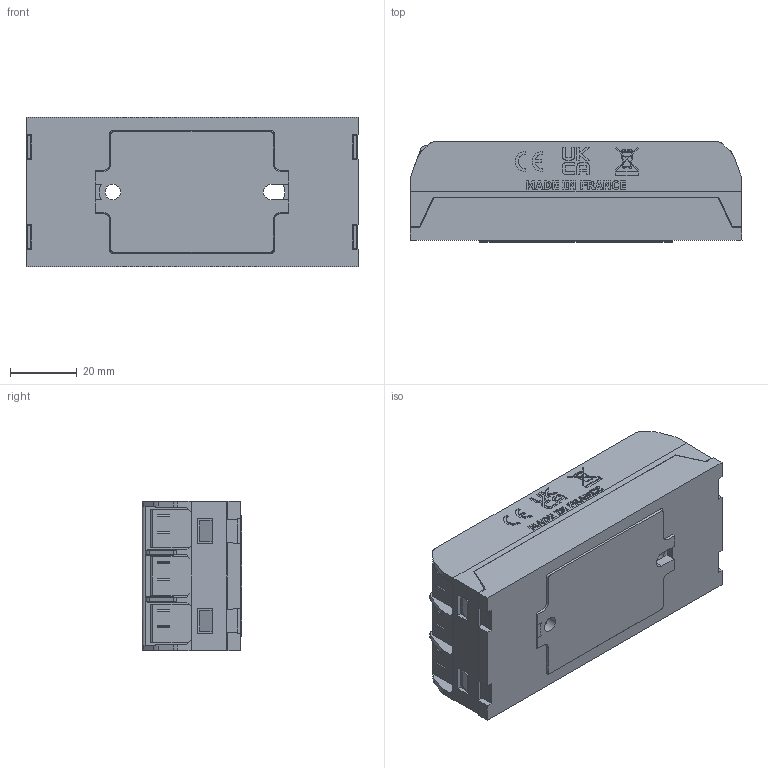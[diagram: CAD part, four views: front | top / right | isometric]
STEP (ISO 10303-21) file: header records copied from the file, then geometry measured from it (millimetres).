
FILE_DESCRIPTION(/* description */ (''),/* implementation_level */ '2;1');
FILE_NAME(/* name */ 'R:\Stock\3D pour clients\CELDUC references\2D3D 696 A.stp',/* time_stamp */ '2023-12-06T11:08:15+01:00',/* author */ ('ysicot'),/* organization */ (''),/* preprocessor_version */ 'ST-DEVELOPER v17',/* originating_system */ 'Autodesk Inventor 2018',/* authorisation */ '');
FILE_SCHEMA (('CONFIG_CONTROL_DESIGN'));
Length unit declared in the file: millimetre
Products named in the file (1): SMQ_Shrinkwrap_1
Bounding box: 99.8 x 30.03 x 45 mm (x, y, z)
Volume: 113319.9 mm3; surface area: 32113.8 mm2
Topology: 1 solids, 1 shells, 1282 faces, 3444 edges, 2265 vertices
Faces by surface type: plane 1016, cylinder 165, cone 59, bspline 42
Full cylindrical faces by diameter (mm): 3 x4, 4.7 x1
Entity records: 42149 total; most frequent: CARTESIAN_POINT 8727, ORIENTED_EDGE 6888, DIRECTION 6209, EDGE_CURVE 3444, LINE 2817, VECTOR 2817, VERTEX_POINT 2265, AXIS2_PLACEMENT_3D 1696
